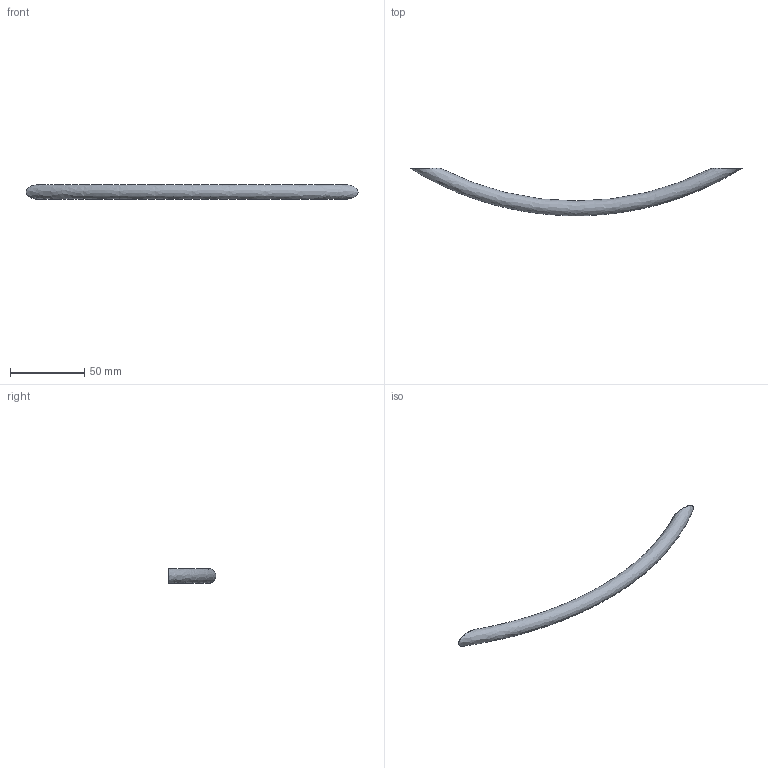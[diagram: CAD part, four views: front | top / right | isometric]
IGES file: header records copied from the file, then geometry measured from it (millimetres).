
Start section: Data from Parasolid IGES Translator 15.0.47, Copyright(c) 2006 Siemens P LM Software. All Rights Reserved.
Global section: file name: 9070723.igs; native system:  By UGS Corp.; preprocessor: XPlus GENERIC/IGES 3.0; author: Noname; organization: Noname; date: 20140827.155642; units: millimetre
Bounding box: 223 x 31.94 x 10 mm (x, y, z)
Surface area: 7151.1 mm2 (no closed solid volume)
Topology: 0 solids, 0 shells, 7 faces, 18 edges, 14 vertices
Faces by surface type: extrusion 4, revolution 3
